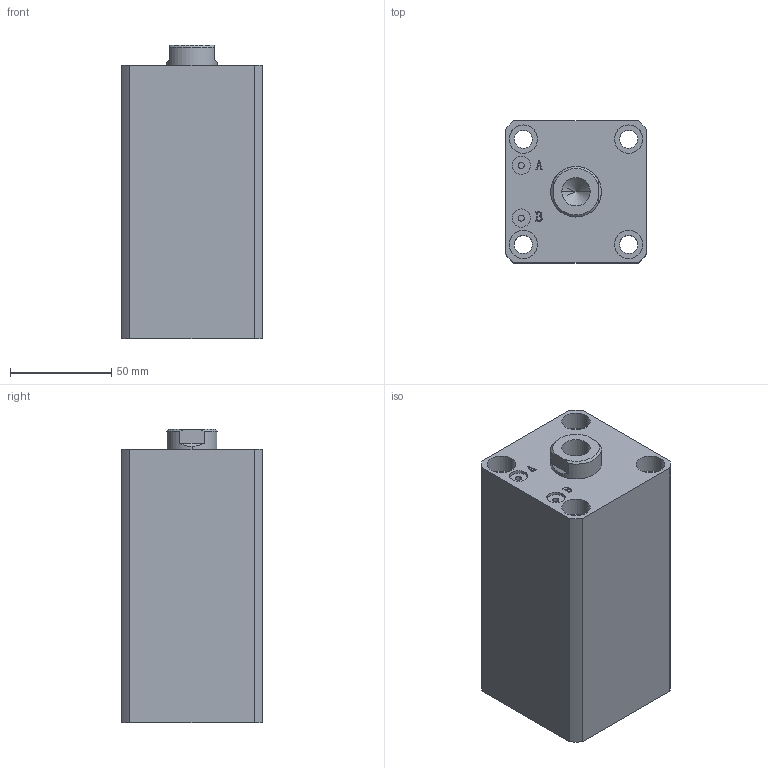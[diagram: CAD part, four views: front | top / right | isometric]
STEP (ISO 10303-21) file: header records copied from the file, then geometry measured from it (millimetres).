
FILE_DESCRIPTION (( 'STEP AP203' ), '1' );
FILE_NAME ('HTB-SDMA40-80N.STEP', '2019-10-07T11:56:53', ( '微软用户' ), ( '微软中国' ), 'SwSTEP 2.0', 'SolidWorks 2012', '' );
FILE_SCHEMA (( 'CONFIG_CONTROL_DESIGN' ));
Length unit declared in the file: millimetre
Products named in the file (3): HTB-SDMA40-80N; HTB-SDMA40-80N活塞杆; HTB-SDMA40-80掛极
Assembly tree (2 placements, depth 2):
  HTB-SDMA40-80N
    HTB-SDMA40-80掛极
    HTB-SDMA40-80N活塞杆
Bounding box: 70 x 70 x 145 mm (x, y, z)
Volume: 554904.5 mm3; surface area: 93332.4 mm2
Topology: 2 solids, 2 shells, 137 faces, 331 edges, 217 vertices
Faces by surface type: plane 65, cylinder 46, bspline 16, torus 6, cone 4
Entity records: 5074 total; most frequent: CARTESIAN_POINT 1580, ORIENTED_EDGE 658, DIRECTION 647, EDGE_CURVE 329, AXIS2_PLACEMENT_3D 232, VERTEX_POINT 217, LINE 183, VECTOR 183
